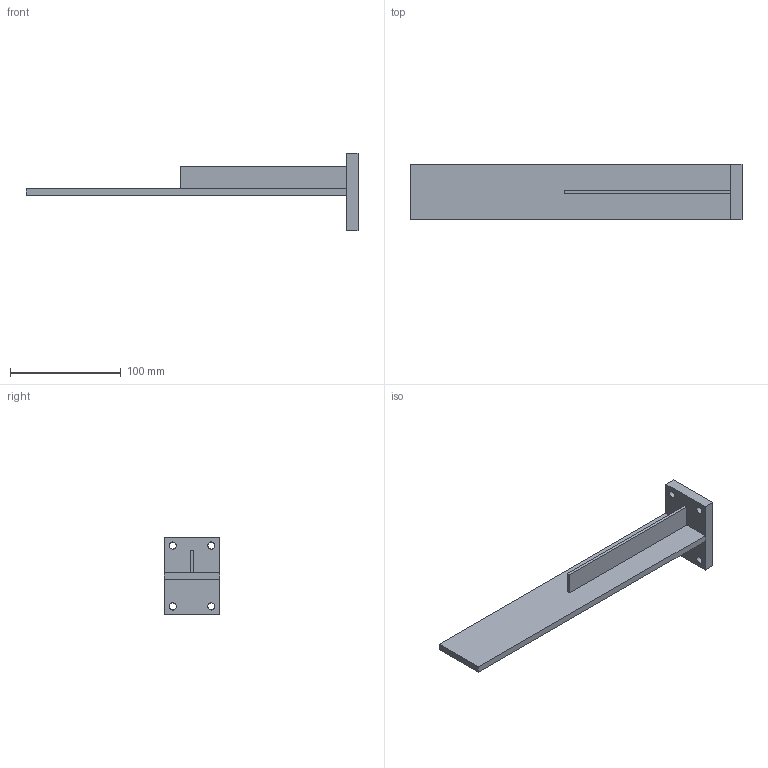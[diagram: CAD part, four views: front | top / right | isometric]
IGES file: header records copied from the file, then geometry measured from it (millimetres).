
Global section: file name: 03.05-B; native system: Autodesk Inventor 2014; preprocessor: unknown; author: Stefano; date: 20150522.092842; units: millimetre
Bounding box: 300 x 50 x 70 mm (x, y, z)
Volume: 129672.5 mm3; surface area: 50051.7 mm2
Topology: 3 solids, 3 shells, 22 faces, 52 edges, 36 vertices
Faces by surface type: bspline 22
